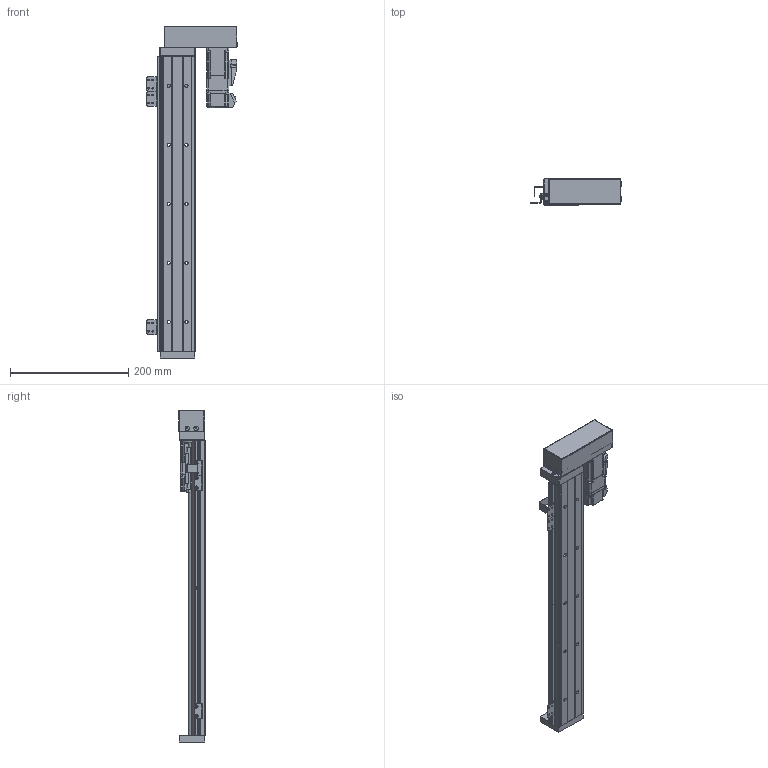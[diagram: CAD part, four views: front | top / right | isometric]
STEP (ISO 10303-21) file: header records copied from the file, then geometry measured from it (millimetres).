
FILE_DESCRIPTION (( 'STEP AP203' ), '1' );
FILE_NAME ('KH60D10C-500A1-H2LS0.STEP', '2022-06-07T10:56:17', ( '' ), ( '' ), 'SwSTEP 2.0', 'SolidWorks 2016', '' );
FILE_SCHEMA (( 'CONFIG_CONTROL_DESIGN' ));
Length unit declared in the file: millimetre
Products named in the file (59): KK60-02-04; KK60-01-02-XXXX; 囀鞠褒す埴芛蹟隊M3℅5; 216々湍; 晦埴芛M3X6蹟隊; KH86-08-(SX674); 内六角圆柱头螺钉M3×10; KH60-02-0000; 侂狟萇儂P10B; KK60-02-01-H0_KK60-02-01-H0&H1; 錨璃2; 内六角圆柱头螺钉M3×18; KK60-02-03; KK60-04-07G; 綴釱; 鞠褒蹟譫M3; KK60-02-02; KH60-500; KK60-08-01; KH60D10C-500A1-H2LS0; KK60-02-01-H0; B-KK60-A1-F0C; KK60-01-02-XXXX_KK60-01-02-150
Assembly tree (33 placements, depth 3):
  KK60-02-04
  KK60-01-02-XXXX
  囀鞠褒す埴芛蹟隊M3℅5
  216々湍
  晦埴芛M3X6蹟隊
Bounding box: 153.7 x 45 x 562 mm (x, y, z)
Volume: 736745.7 mm3; surface area: 255001.4 mm2
Topology: 39 solids, 39 shells, 2187 faces, 5686 edges, 3651 vertices
Faces by surface type: plane 1030, cylinder 556, bspline 280, cone 247, torus 62, sphere 12
Entity records: 61109 total; most frequent: CARTESIAN_POINT 14579, ORIENTED_EDGE 8994, DIRECTION 7746, EDGE_CURVE 4497, VERTEX_POINT 2954, VECTOR 2780, LINE 2780, AXIS2_PLACEMENT_3D 2483
